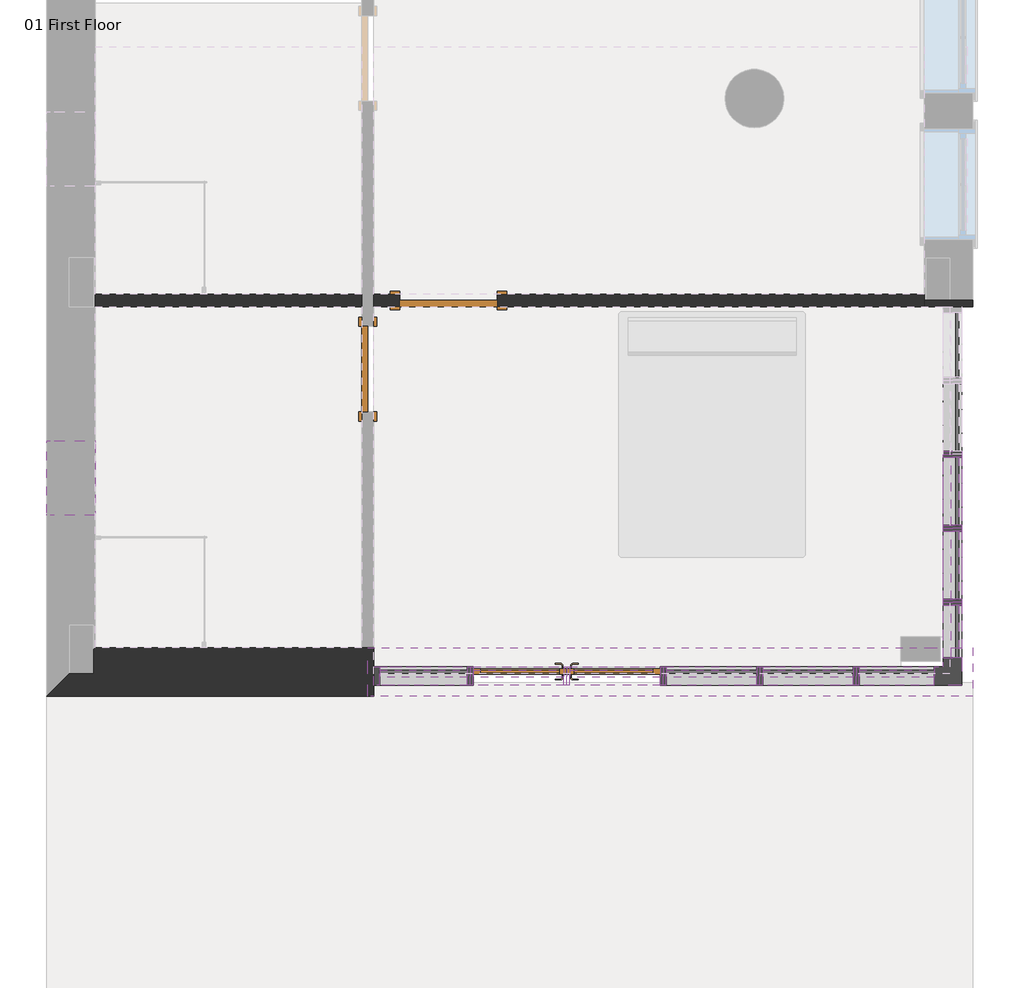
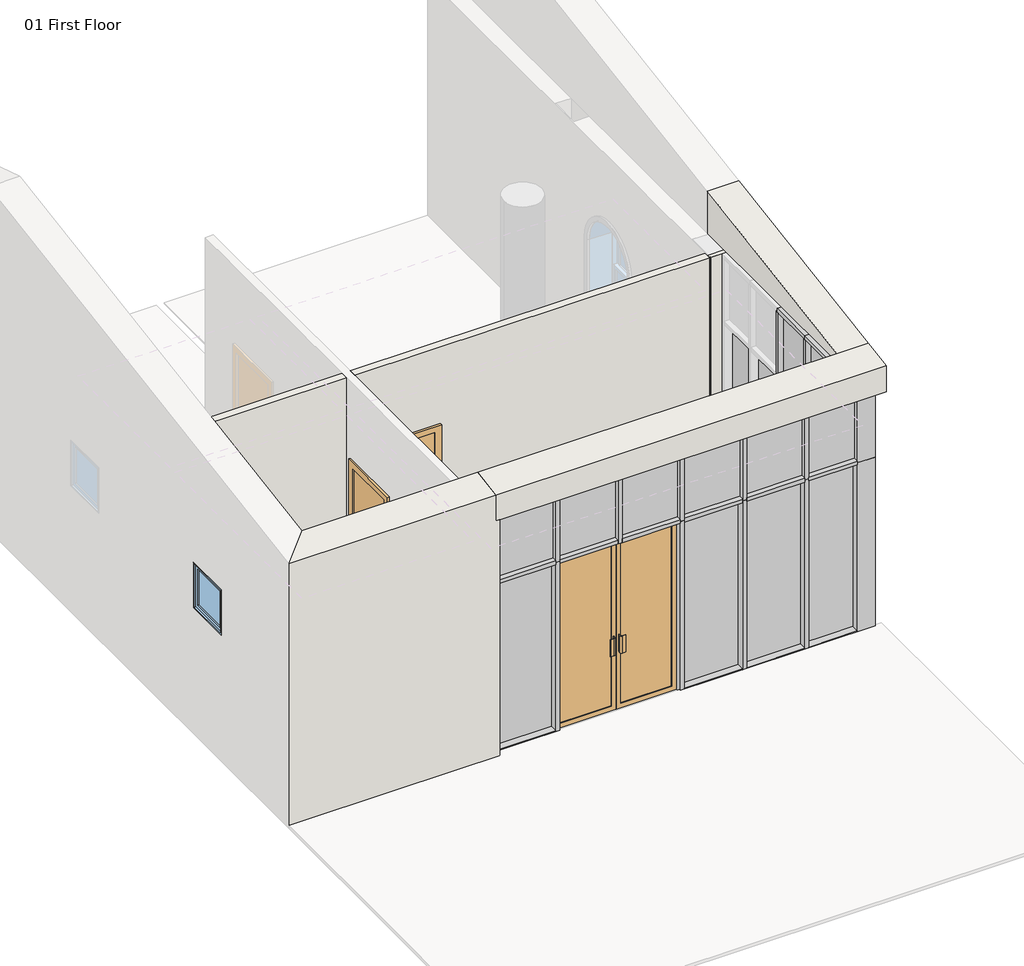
# One storey, part 1 of 3: 45 members, 18 plates, 4 walls, 3 doors, 1 window.
"""IFC4 building model written with IfcOpenShell, lengths in millimetres."""

from ifc_helpers import new_model, si_unit, origin, place, context, project, spatial, faceted_brep, transform, mapped, element, save
from components import m_door_curtain_wall_double_storefront_m_door_curtain_wall_8dde1bc9, m_single_flush_0700_x_2100mm_23326b45, m_single_flush_0800_x_2100mm_5931a049, l_corner_mullion_l_mullion_1_1d961c4e, l_corner_mullion_l_mullion_1_b63ad59a, rectangular_mullion_50_x_150mm_324a6438, rectangular_mullion_50_x_150mm_8753ce05, rectangular_mullion_50_x_150mm_f70f74d1, rectangular_mullion_50_x_150mm_f478ca5a, rectangular_mullion_50_x_150mm_1075d9c1, rectangular_mullion_50_x_150mm_b6bf1841, rectangular_mullion_50_x_150mm_342cd1b8, rectangular_mullion_50_x_150mm_27f82533, rectangular_mullion_50_x_150mm_39193753, rectangular_mullion_50_x_150mm_f704ff47, rectangular_mullion_50_x_150mm_af0ba744, rectangular_mullion_50_x_150mm_80f63b0b, rectangular_mullion_50_x_150mm_db5acec3, rectangular_mullion_50_x_150mm_cae2f493, rectangular_mullion_50_x_150mm_9a38d7ad, rectangular_mullion_50_x_150mm_a8401840, rectangular_mullion_50_x_150mm_3184acce, rectangular_mullion_50_x_150mm_44fe3089, rectangular_mullion_50_x_150mm_4e612c1a, rectangular_mullion_50_x_150mm_7d2f3f35, system_panel_glazed_834570a4, system_panel_glazed_a0e57360, system_panel_glazed_11854295, system_panel_glazed_6aca887c, system_panel_glazed_76cff112, system_panel_glazed_0cbce7a5, system_panel_solid_505ec3b0, system_panel_solid_37a388a8, system_panel_solid_ce425cba, system_panel_solid_9ac85d2e, system_panel_solid_fdd704db, m_fixed_0610_x_0610mm_08517cb4

model = new_model("IFC4")

# Units and contexts
model_context = context("Model", 3, world=origin())
ifc_project = project(units=[si_unit("LENGTHUNIT", "METRE", prefix="MILLI")], contexts=[model_context])

# Site, building, storey
site = spatial("IfcSite", under=ifc_project)
building = spatial("IfcBuilding", under=site)
storey = spatial("IfcBuildingStorey", under=building, Name="01 First Floor", Elevation=3500.0)

# Doors
placement = place(None, origin())
m_door_curtain_wall_double_storefront_m_door_curtain_wall_shape = m_door_curtain_wall_double_storefront_m_door_curtain_wall_8dde1bc9(model_context)
element("IfcDoor", 1, ObjectType="M_Door-Curtain-Wall-Double-Storefront : M_Door-Curtain-Wall-Double-Storefront", at=placement, inside=storey, context=model_context, shape_type="MappedRepresentation", body=[
    mapped(m_door_curtain_wall_double_storefront_m_door_curtain_wall_shape, transform((-4255.8741332, -3082.7101648, 3500.0), x_axis=(1.0, 0.0, 0.0), y_axis=(0.0, 1.0, 0.0), z_axis=(0.0, 0.0, 1.0))),
])
m_single_flush_0700_x_2100mm_shape = m_single_flush_0700_x_2100mm_23326b45(model_context)
element("IfcDoor", 2, ObjectType="M_Single-Flush : 0700 x 2100mm", at=placement, inside=storey, context=model_context, shape_type="MappedRepresentation", body=[
    mapped(m_single_flush_0700_x_2100mm_shape, transform((-5882.5407999, -574.1267294, 3500.0), x_axis=(0.0, 1.0, 0.0), y_axis=(-1.0, 0.0, 0.0), z_axis=(0.0, 0.0, 1.0))),
])
m_single_flush_0800_x_2100mm_shape = m_single_flush_0800_x_2100mm_5931a049(model_context)
element("IfcDoor", 3, ObjectType="M_Single-Flush : 0800 x 2100mm", at=placement, inside=storey, context=model_context, shape_type="MappedRepresentation", body=[
    mapped(m_single_flush_0800_x_2100mm_shape, transform((-5222.5407999, -12.7101648, 3500.0), x_axis=(-1.0, 0.0, 0.0), y_axis=(0.0, -1.0, 0.0), z_axis=(0.0, 0.0, 1.0))),
])

# Members
l_corner_mullion_l_mullion_1_shape = l_corner_mullion_l_mullion_1_1d961c4e(model_context)
element("IfcMember", 4, ObjectType="L Corner Mullion : L Mullion 1", at=placement, inside=storey, context=model_context, shape_type="MappedRepresentation", body=[
    mapped(l_corner_mullion_l_mullion_1_shape, transform((-1102.5407999, -3082.7101648, 5800.0), x_axis=(0.0, -1.0, 0.0), y_axis=(1.0, 0.0, 0.0), z_axis=(0.0, 0.0, 1.0))),
])
l_corner_mullion_l_mullion_1_2_shape = l_corner_mullion_l_mullion_1_b63ad59a(model_context)
element("IfcMember", 5, ObjectType="L Corner Mullion : L Mullion 1", at=placement, inside=storey, context=model_context, shape_type="MappedRepresentation", body=[
    mapped(l_corner_mullion_l_mullion_1_2_shape, transform((-1102.5407999, -3082.7101648, 6700.0), x_axis=(0.0, -1.0, 0.0), y_axis=(1.0, 0.0, 0.0), z_axis=(0.0, 0.0, 1.0))),
])
rectangular_mullion_50_x_150mm_shape = rectangular_mullion_50_x_150mm_324a6438(model_context)
element("IfcMember", 6, ObjectType="Rectangular Mullion : 50 x 150mm", at=placement, inside=storey, context=model_context, shape_type="MappedRepresentation", body=[
    mapped(rectangular_mullion_50_x_150mm_shape, transform((-5832.5407999, -3082.7101648, 6650.0), x_axis=(-1.0, 0.0, 0.0), y_axis=(0.0, -1.0, 0.0), z_axis=(0.0, 0.0, 1.0))),
])
rectangular_mullion_50_x_150mm_2_shape = rectangular_mullion_50_x_150mm_8753ce05(model_context)
element("IfcMember", 7, ObjectType="Rectangular Mullion : 50 x 150mm", at=placement, inside=storey, context=model_context, shape_type="MappedRepresentation", body=[
    mapped(rectangular_mullion_50_x_150mm_2_shape, transform((-5832.5407999, -3082.7101648, 5800.0), x_axis=(-1.0, 0.0, 0.0), y_axis=(0.0, -1.0, 0.0), z_axis=(0.0, 0.0, 1.0))),
])
rectangular_mullion_50_x_150mm_3_shape = rectangular_mullion_50_x_150mm_f70f74d1(model_context)
element("IfcMember", 8, ObjectType="Rectangular Mullion : 50 x 150mm", at=placement, inside=storey, context=model_context, shape_type="MappedRepresentation", body=[
    mapped(rectangular_mullion_50_x_150mm_3_shape, transform((-5044.2074664, -3082.7101648, 3500.0), x_axis=(1.0, 0.0, 0.0), y_axis=(0.0, -1.0, 0.0), z_axis=(0.0, 0.0, -1.0))),
])
element("IfcMember", 9, ObjectType="Rectangular Mullion : 50 x 150mm", at=placement, inside=storey, context=model_context, shape_type="MappedRepresentation", body=[
    mapped(rectangular_mullion_50_x_150mm_3_shape, transform((-3467.5407999, -3082.7101648, 3500.0), x_axis=(1.0, 0.0, 0.0), y_axis=(0.0, -1.0, 0.0), z_axis=(0.0, 0.0, -1.0))),
])
element("IfcMember", 10, ObjectType="Rectangular Mullion : 50 x 150mm", at=placement, inside=storey, context=model_context, shape_type="MappedRepresentation", body=[
    mapped(rectangular_mullion_50_x_150mm_3_shape, transform((-2679.2074667, -3082.7101648, 3500.0), x_axis=(1.0, 0.0, 0.0), y_axis=(0.0, -1.0, 0.0), z_axis=(0.0, 0.0, -1.0))),
])
element("IfcMember", 11, ObjectType="Rectangular Mullion : 50 x 150mm", at=placement, inside=storey, context=model_context, shape_type="MappedRepresentation", body=[
    mapped(rectangular_mullion_50_x_150mm_3_shape, transform((-1890.8741335, -3082.7101648, 3500.0), x_axis=(1.0, 0.0, 0.0), y_axis=(0.0, -1.0, 0.0), z_axis=(0.0, 0.0, -1.0))),
])
rectangular_mullion_50_x_150mm_4_shape = rectangular_mullion_50_x_150mm_f478ca5a(model_context)
element("IfcMember", 12, ObjectType="Rectangular Mullion : 50 x 150mm", at=placement, inside=storey, context=model_context, shape_type="MappedRepresentation", body=[
    mapped(rectangular_mullion_50_x_150mm_4_shape, transform((-5044.2074664, -3082.7101648, 5800.0), x_axis=(1.0, 0.0, 0.0), y_axis=(0.0, -1.0, 0.0), z_axis=(0.0, 0.0, -1.0))),
])
element("IfcMember", 13, ObjectType="Rectangular Mullion : 50 x 150mm", at=placement, inside=storey, context=model_context, shape_type="MappedRepresentation", body=[
    mapped(rectangular_mullion_50_x_150mm_4_shape, transform((-3467.5407999, -3082.7101648, 5800.0), x_axis=(1.0, 0.0, 0.0), y_axis=(0.0, -1.0, 0.0), z_axis=(0.0, 0.0, -1.0))),
])
element("IfcMember", 14, ObjectType="Rectangular Mullion : 50 x 150mm", at=placement, inside=storey, context=model_context, shape_type="MappedRepresentation", body=[
    mapped(rectangular_mullion_50_x_150mm_4_shape, transform((-2679.2074667, -3082.7101648, 5800.0), x_axis=(1.0, 0.0, 0.0), y_axis=(0.0, -1.0, 0.0), z_axis=(0.0, 0.0, -1.0))),
])
element("IfcMember", 15, ObjectType="Rectangular Mullion : 50 x 150mm", at=placement, inside=storey, context=model_context, shape_type="MappedRepresentation", body=[
    mapped(rectangular_mullion_50_x_150mm_4_shape, transform((-1890.8741335, -3082.7101648, 5800.0), x_axis=(1.0, 0.0, 0.0), y_axis=(0.0, -1.0, 0.0), z_axis=(0.0, 0.0, -1.0))),
])
rectangular_mullion_50_x_150mm_5_shape = rectangular_mullion_50_x_150mm_1075d9c1(model_context)
element("IfcMember", 16, ObjectType="Rectangular Mullion : 50 x 150mm", at=placement, inside=storey, context=model_context, shape_type="MappedRepresentation", body=[
    mapped(rectangular_mullion_50_x_150mm_5_shape, transform((-4255.8741332, -3082.7101648, 5775.0), x_axis=(1.0, 0.0, 0.0), y_axis=(0.0, -1.0, 0.0), z_axis=(0.0, 0.0, -1.0))),
])
element("IfcMember", 17, ObjectType="Rectangular Mullion : 50 x 150mm", at=placement, inside=storey, context=model_context, shape_type="MappedRepresentation", body=[
    mapped(rectangular_mullion_50_x_150mm_3_shape, transform((-1102.5407999, -2478.7101646, 3500.0), x_axis=(0.0, 1.0, 0.0), y_axis=(1.0, 0.0, 0.0), z_axis=(0.0, 0.0, -1.0))),
])
element("IfcMember", 18, ObjectType="Rectangular Mullion : 50 x 150mm", at=placement, inside=storey, context=model_context, shape_type="MappedRepresentation", body=[
    mapped(rectangular_mullion_50_x_150mm_3_shape, transform((-1102.5407999, -1874.7101647, 3500.0), x_axis=(0.0, 1.0, 0.0), y_axis=(1.0, 0.0, 0.0), z_axis=(0.0, 0.0, -1.0))),
])
element("IfcMember", 19, ObjectType="Rectangular Mullion : 50 x 150mm", at=placement, inside=storey, context=model_context, shape_type="MappedRepresentation", body=[
    mapped(rectangular_mullion_50_x_150mm_3_shape, transform((-1102.5407999, -1270.7101648, 3500.0), x_axis=(0.0, 1.0, 0.0), y_axis=(1.0, 0.0, 0.0), z_axis=(0.0, 0.0, -1.0))),
])
element("IfcMember", 20, ObjectType="Rectangular Mullion : 50 x 150mm", at=placement, inside=storey, context=model_context, shape_type="MappedRepresentation", body=[
    mapped(rectangular_mullion_50_x_150mm_4_shape, transform((-1102.5407999, -2478.7101646, 5800.0), x_axis=(0.0, 1.0, 0.0), y_axis=(1.0, 0.0, 0.0), z_axis=(0.0, 0.0, -1.0))),
])
element("IfcMember", 21, ObjectType="Rectangular Mullion : 50 x 150mm", at=placement, inside=storey, context=model_context, shape_type="MappedRepresentation", body=[
    mapped(rectangular_mullion_50_x_150mm_4_shape, transform((-1102.5407999, -1874.7101647, 5800.0), x_axis=(0.0, 1.0, 0.0), y_axis=(1.0, 0.0, 0.0), z_axis=(0.0, 0.0, -1.0))),
])
element("IfcMember", 22, ObjectType="Rectangular Mullion : 50 x 150mm", at=placement, inside=storey, context=model_context, shape_type="MappedRepresentation", body=[
    mapped(rectangular_mullion_50_x_150mm_4_shape, transform((-1102.5407999, -1270.7101648, 5800.0), x_axis=(0.0, 1.0, 0.0), y_axis=(1.0, 0.0, 0.0), z_axis=(0.0, 0.0, -1.0))),
])
rectangular_mullion_50_x_150mm_6_shape = rectangular_mullion_50_x_150mm_b6bf1841(model_context)
element("IfcMember", 23, ObjectType="Rectangular Mullion : 50 x 150mm", at=placement, inside=storey, context=model_context, shape_type="MappedRepresentation", body=[
    mapped(rectangular_mullion_50_x_150mm_6_shape, transform((-1102.5407999, -2932.7101648, 3500.0), x_axis=(0.0, 0.0, -1.0), y_axis=(1.0, 0.0, 0.0), z_axis=(0.0, -1.0, 0.0))),
])
rectangular_mullion_50_x_150mm_7_shape = rectangular_mullion_50_x_150mm_342cd1b8(model_context)
element("IfcMember", 24, ObjectType="Rectangular Mullion : 50 x 150mm", at=placement, inside=storey, context=model_context, shape_type="MappedRepresentation", body=[
    mapped(rectangular_mullion_50_x_150mm_7_shape, transform((-1102.5407999, -2478.7101646, 6700.0), x_axis=(0.0, 0.0, 1.0), y_axis=(1.0, 0.0, 0.0), z_axis=(0.0, 1.0, 0.0))),
])
rectangular_mullion_50_x_150mm_8_shape = rectangular_mullion_50_x_150mm_27f82533(model_context)
element("IfcMember", 25, ObjectType="Rectangular Mullion : 50 x 150mm", at=placement, inside=storey, context=model_context, shape_type="MappedRepresentation", body=[
    mapped(rectangular_mullion_50_x_150mm_8_shape, transform((-1102.5407999, -1874.7101647, 6700.0), x_axis=(0.0, 0.0, 1.0), y_axis=(1.0, 0.0, 0.0), z_axis=(0.0, 1.0, 0.0))),
])
element("IfcMember", 26, ObjectType="Rectangular Mullion : 50 x 150mm", at=placement, inside=storey, context=model_context, shape_type="MappedRepresentation", body=[
    mapped(rectangular_mullion_50_x_150mm_8_shape, transform((-1102.5407999, -1270.7101648, 6700.0), x_axis=(0.0, 0.0, 1.0), y_axis=(1.0, 0.0, 0.0), z_axis=(0.0, 1.0, 0.0))),
])
rectangular_mullion_50_x_150mm_9_shape = rectangular_mullion_50_x_150mm_39193753(model_context)
element("IfcMember", 27, ObjectType="Rectangular Mullion : 50 x 150mm", at=placement, inside=storey, context=model_context, shape_type="MappedRepresentation", body=[
    mapped(rectangular_mullion_50_x_150mm_9_shape, transform((-1102.5407999, -2453.7101646, 3500.0), x_axis=(0.0, 0.0, -1.0), y_axis=(1.0, 0.0, 0.0), z_axis=(0.0, -1.0, 0.0))),
])
element("IfcMember", 28, ObjectType="Rectangular Mullion : 50 x 150mm", at=placement, inside=storey, context=model_context, shape_type="MappedRepresentation", body=[
    mapped(rectangular_mullion_50_x_150mm_9_shape, transform((-1102.5407999, -1849.7101647, 3500.0), x_axis=(0.0, 0.0, -1.0), y_axis=(1.0, 0.0, 0.0), z_axis=(0.0, -1.0, 0.0))),
])
element("IfcMember", 29, ObjectType="Rectangular Mullion : 50 x 150mm", at=placement, inside=storey, context=model_context, shape_type="MappedRepresentation", body=[
    mapped(rectangular_mullion_50_x_150mm_9_shape, transform((-1102.5407999, -1245.7101648, 3500.0), x_axis=(0.0, 0.0, -1.0), y_axis=(1.0, 0.0, 0.0), z_axis=(0.0, -1.0, 0.0))),
])
rectangular_mullion_50_x_150mm_10_shape = rectangular_mullion_50_x_150mm_f704ff47(model_context)
element("IfcMember", 30, ObjectType="Rectangular Mullion : 50 x 150mm", at=placement, inside=storey, context=model_context, shape_type="MappedRepresentation", body=[
    mapped(rectangular_mullion_50_x_150mm_10_shape, transform((-1102.5407999, -2503.7101646, 5800.0), x_axis=(0.0, 0.0, 1.0), y_axis=(1.0, 0.0, 0.0), z_axis=(0.0, 1.0, 0.0))),
])
rectangular_mullion_50_x_150mm_11_shape = rectangular_mullion_50_x_150mm_af0ba744(model_context)
element("IfcMember", 31, ObjectType="Rectangular Mullion : 50 x 150mm", at=placement, inside=storey, context=model_context, shape_type="MappedRepresentation", body=[
    mapped(rectangular_mullion_50_x_150mm_11_shape, transform((-1102.5407999, -1899.7101647, 5800.0), x_axis=(0.0, 0.0, 1.0), y_axis=(1.0, 0.0, 0.0), z_axis=(0.0, 1.0, 0.0))),
])
element("IfcMember", 32, ObjectType="Rectangular Mullion : 50 x 150mm", at=placement, inside=storey, context=model_context, shape_type="MappedRepresentation", body=[
    mapped(rectangular_mullion_50_x_150mm_11_shape, transform((-1102.5407999, -1295.7101648, 5800.0), x_axis=(0.0, 0.0, 1.0), y_axis=(1.0, 0.0, 0.0), z_axis=(0.0, 1.0, 0.0))),
])
rectangular_mullion_50_x_150mm_12_shape = rectangular_mullion_50_x_150mm_80f63b0b(model_context)
element("IfcMember", 33, ObjectType="Rectangular Mullion : 50 x 150mm", at=placement, inside=storey, context=model_context, shape_type="MappedRepresentation", body=[
    mapped(rectangular_mullion_50_x_150mm_12_shape, transform((-5782.5407999, -3082.7101648, 3500.0), x_axis=(0.0, 0.0, -1.0), y_axis=(0.0, -1.0, 0.0), z_axis=(-1.0, 0.0, 0.0))),
])
rectangular_mullion_50_x_150mm_13_shape = rectangular_mullion_50_x_150mm_db5acec3(model_context)
element("IfcMember", 34, ObjectType="Rectangular Mullion : 50 x 150mm", at=placement, inside=storey, context=model_context, shape_type="MappedRepresentation", body=[
    mapped(rectangular_mullion_50_x_150mm_13_shape, transform((-5044.2074664, -3082.7101648, 6700.0), x_axis=(0.0, 0.0, 1.0), y_axis=(0.0, -1.0, 0.0), z_axis=(1.0, 0.0, 0.0))),
])
rectangular_mullion_50_x_150mm_14_shape = rectangular_mullion_50_x_150mm_cae2f493(model_context)
element("IfcMember", 35, ObjectType="Rectangular Mullion : 50 x 150mm", at=placement, inside=storey, context=model_context, shape_type="MappedRepresentation", body=[
    mapped(rectangular_mullion_50_x_150mm_14_shape, transform((-4255.8741332, -3082.7101648, 6700.0), x_axis=(0.0, 0.0, 1.0), y_axis=(0.0, -1.0, 0.0), z_axis=(1.0, 0.0, 0.0))),
])
element("IfcMember", 36, ObjectType="Rectangular Mullion : 50 x 150mm", at=placement, inside=storey, context=model_context, shape_type="MappedRepresentation", body=[
    mapped(rectangular_mullion_50_x_150mm_14_shape, transform((-3467.5407999, -3082.7101648, 6700.0), x_axis=(0.0, 0.0, 1.0), y_axis=(0.0, -1.0, 0.0), z_axis=(1.0, 0.0, 0.0))),
])
element("IfcMember", 37, ObjectType="Rectangular Mullion : 50 x 150mm", at=placement, inside=storey, context=model_context, shape_type="MappedRepresentation", body=[
    mapped(rectangular_mullion_50_x_150mm_14_shape, transform((-2679.2074667, -3082.7101648, 6700.0), x_axis=(0.0, 0.0, 1.0), y_axis=(0.0, -1.0, 0.0), z_axis=(1.0, 0.0, 0.0))),
])
element("IfcMember", 38, ObjectType="Rectangular Mullion : 50 x 150mm", at=placement, inside=storey, context=model_context, shape_type="MappedRepresentation", body=[
    mapped(rectangular_mullion_50_x_150mm_14_shape, transform((-1890.8741335, -3082.7101648, 6700.0), x_axis=(0.0, 0.0, 1.0), y_axis=(0.0, -1.0, 0.0), z_axis=(1.0, 0.0, 0.0))),
])
rectangular_mullion_50_x_150mm_15_shape = rectangular_mullion_50_x_150mm_9a38d7ad(model_context)
element("IfcMember", 39, ObjectType="Rectangular Mullion : 50 x 150mm", at=placement, inside=storey, context=model_context, shape_type="MappedRepresentation", body=[
    mapped(rectangular_mullion_50_x_150mm_15_shape, transform((-3442.5407999, -3082.7101648, 3500.0), x_axis=(0.0, 0.0, -1.0), y_axis=(0.0, -1.0, 0.0), z_axis=(-1.0, 0.0, 0.0))),
])
element("IfcMember", 40, ObjectType="Rectangular Mullion : 50 x 150mm", at=placement, inside=storey, context=model_context, shape_type="MappedRepresentation", body=[
    mapped(rectangular_mullion_50_x_150mm_15_shape, transform((-2654.2074667, -3082.7101648, 3500.0), x_axis=(0.0, 0.0, -1.0), y_axis=(0.0, -1.0, 0.0), z_axis=(-1.0, 0.0, 0.0))),
])
rectangular_mullion_50_x_150mm_16_shape = rectangular_mullion_50_x_150mm_a8401840(model_context)
element("IfcMember", 41, ObjectType="Rectangular Mullion : 50 x 150mm", at=placement, inside=storey, context=model_context, shape_type="MappedRepresentation", body=[
    mapped(rectangular_mullion_50_x_150mm_16_shape, transform((-5069.2074664, -3082.7101648, 5800.0), x_axis=(0.0, 0.0, 1.0), y_axis=(0.0, -1.0, 0.0), z_axis=(1.0, 0.0, 0.0))),
])
rectangular_mullion_50_x_150mm_17_shape = rectangular_mullion_50_x_150mm_3184acce(model_context)
element("IfcMember", 42, ObjectType="Rectangular Mullion : 50 x 150mm", at=placement, inside=storey, context=model_context, shape_type="MappedRepresentation", body=[
    mapped(rectangular_mullion_50_x_150mm_17_shape, transform((-4280.8741332, -3082.7101648, 5800.0), x_axis=(0.0, 0.0, 1.0), y_axis=(0.0, -1.0, 0.0), z_axis=(1.0, 0.0, 0.0))),
])
element("IfcMember", 43, ObjectType="Rectangular Mullion : 50 x 150mm", at=placement, inside=storey, context=model_context, shape_type="MappedRepresentation", body=[
    mapped(rectangular_mullion_50_x_150mm_17_shape, transform((-3492.5407999, -3082.7101648, 5800.0), x_axis=(0.0, 0.0, 1.0), y_axis=(0.0, -1.0, 0.0), z_axis=(1.0, 0.0, 0.0))),
])
element("IfcMember", 44, ObjectType="Rectangular Mullion : 50 x 150mm", at=placement, inside=storey, context=model_context, shape_type="MappedRepresentation", body=[
    mapped(rectangular_mullion_50_x_150mm_17_shape, transform((-2704.2074667, -3082.7101648, 5800.0), x_axis=(0.0, 0.0, 1.0), y_axis=(0.0, -1.0, 0.0), z_axis=(1.0, 0.0, 0.0))),
])
element("IfcMember", 45, ObjectType="Rectangular Mullion : 50 x 150mm", at=placement, inside=storey, context=model_context, shape_type="MappedRepresentation", body=[
    mapped(rectangular_mullion_50_x_150mm_17_shape, transform((-1915.8741335, -3082.7101648, 5800.0), x_axis=(0.0, 0.0, 1.0), y_axis=(0.0, -1.0, 0.0), z_axis=(1.0, 0.0, 0.0))),
])
rectangular_mullion_50_x_150mm_18_shape = rectangular_mullion_50_x_150mm_44fe3089(model_context)
element("IfcMember", 46, ObjectType="Rectangular Mullion : 50 x 150mm", at=placement, inside=storey, context=model_context, shape_type="MappedRepresentation", body=[
    mapped(rectangular_mullion_50_x_150mm_18_shape, transform((-1252.5407999, -3082.7101648, 6700.0), x_axis=(0.0, 0.0, 1.0), y_axis=(0.0, -1.0, 0.0), z_axis=(1.0, 0.0, 0.0))),
])
rectangular_mullion_50_x_150mm_19_shape = rectangular_mullion_50_x_150mm_4e612c1a(model_context)
element("IfcMember", 47, ObjectType="Rectangular Mullion : 50 x 150mm", at=placement, inside=storey, context=model_context, shape_type="MappedRepresentation", body=[
    mapped(rectangular_mullion_50_x_150mm_19_shape, transform((-1865.8741335, -3082.7101648, 3500.0), x_axis=(0.0, 0.0, -1.0), y_axis=(0.0, -1.0, 0.0), z_axis=(-1.0, 0.0, 0.0))),
])
rectangular_mullion_50_x_150mm_20_shape = rectangular_mullion_50_x_150mm_7d2f3f35(model_context)
element("IfcMember", 48, ObjectType="Rectangular Mullion : 50 x 150mm", at=placement, inside=storey, context=model_context, shape_type="MappedRepresentation", body=[
    mapped(rectangular_mullion_50_x_150mm_20_shape, transform((-1252.5407999, -3082.7101648, 5800.0), x_axis=(0.0, 0.0, 1.0), y_axis=(0.0, -1.0, 0.0), z_axis=(1.0, 0.0, 0.0))),
])

# Plates
system_panel_glazed_shape = system_panel_glazed_834570a4(model_context)
element("IfcPlate", 49, ObjectType="System Panel : Glazed", at=placement, inside=storey, context=model_context, shape_type="MappedRepresentation", body=[
    mapped(system_panel_glazed_shape, transform((-1102.5407999, -2718.2101647, 3550.0), x_axis=(0.0, 1.0, 0.0), y_axis=(-1.0, 0.0, 0.0), z_axis=(0.0, 0.0, 1.0))),
])
system_panel_glazed_2_shape = system_panel_glazed_a0e57360(model_context)
element("IfcPlate", 50, ObjectType="System Panel : Glazed", at=placement, inside=storey, context=model_context, shape_type="MappedRepresentation", body=[
    mapped(system_panel_glazed_2_shape, transform((-1102.5407999, -2176.7101646, 3550.0), x_axis=(0.0, 1.0, 0.0), y_axis=(-1.0, 0.0, 0.0), z_axis=(0.0, 0.0, 1.0))),
])
element("IfcPlate", 51, ObjectType="System Panel : Glazed", at=placement, inside=storey, context=model_context, shape_type="MappedRepresentation", body=[
    mapped(system_panel_glazed_2_shape, transform((-1102.5407999, -1572.7101648, 3550.0), x_axis=(0.0, 1.0, 0.0), y_axis=(-1.0, 0.0, 0.0), z_axis=(0.0, 0.0, 1.0))),
])
element("IfcPlate", 52, ObjectType="System Panel : Glazed", at=placement, inside=storey, context=model_context, shape_type="MappedRepresentation", body=[
    mapped(system_panel_glazed_2_shape, transform((-1102.5407999, -968.7101649, 3550.0), x_axis=(0.0, 1.0, 0.0), y_axis=(-1.0, 0.0, 0.0), z_axis=(0.0, 0.0, 1.0))),
])
system_panel_glazed_3_shape = system_panel_glazed_11854295(model_context)
element("IfcPlate", 53, ObjectType="System Panel : Glazed", at=placement, inside=storey, context=model_context, shape_type="MappedRepresentation", body=[
    mapped(system_panel_glazed_3_shape, transform((-1102.5407999, -377.2101649, 3550.0), x_axis=(0.0, 1.0, 0.0), y_axis=(-1.0, 0.0, 0.0), z_axis=(0.0, 0.0, 1.0))),
])
system_panel_glazed_4_shape = system_panel_glazed_6aca887c(model_context)
element("IfcPlate", 54, ObjectType="System Panel : Glazed", at=placement, inside=storey, context=model_context, shape_type="MappedRepresentation", body=[
    mapped(system_panel_glazed_4_shape, transform((-5425.8741332, -3082.7101648, 3550.0), x_axis=(1.0, 0.0, 0.0), y_axis=(0.0, 1.0, 0.0), z_axis=(0.0, 0.0, 1.0))),
])
system_panel_glazed_5_shape = system_panel_glazed_76cff112(model_context)
element("IfcPlate", 55, ObjectType="System Panel : Glazed", at=placement, inside=storey, context=model_context, shape_type="MappedRepresentation", body=[
    mapped(system_panel_glazed_5_shape, transform((-3073.3741333, -3082.7101648, 3550.0), x_axis=(1.0, 0.0, 0.0), y_axis=(0.0, 1.0, 0.0), z_axis=(0.0, 0.0, 1.0))),
])
element("IfcPlate", 56, ObjectType="System Panel : Glazed", at=placement, inside=storey, context=model_context, shape_type="MappedRepresentation", body=[
    mapped(system_panel_glazed_5_shape, transform((-2285.0408001, -3082.7101648, 3550.0), x_axis=(1.0, 0.0, 0.0), y_axis=(0.0, 1.0, 0.0), z_axis=(0.0, 0.0, 1.0))),
])
system_panel_glazed_6_shape = system_panel_glazed_0cbce7a5(model_context)
element("IfcPlate", 57, ObjectType="System Panel : Glazed", at=placement, inside=storey, context=model_context, shape_type="MappedRepresentation", body=[
    mapped(system_panel_glazed_6_shape, transform((-1559.2074667, -3082.7101648, 3550.0), x_axis=(1.0, 0.0, 0.0), y_axis=(0.0, 1.0, 0.0), z_axis=(0.0, 0.0, 1.0))),
])
system_panel_solid_shape = system_panel_solid_505ec3b0(model_context)
element("IfcPlate", 58, ObjectType="System Panel : Solid", at=placement, inside=storey, context=model_context, shape_type="MappedRepresentation", body=[
    mapped(system_panel_solid_shape, transform((-1102.5407999, -2718.2101647, 5825.0), x_axis=(0.0, 1.0, 0.0), y_axis=(-1.0, 0.0, 0.0), z_axis=(0.0, 0.0, 1.0))),
])
system_panel_solid_2_shape = system_panel_solid_37a388a8(model_context)
element("IfcPlate", 59, ObjectType="System Panel : Solid", at=placement, inside=storey, context=model_context, shape_type="MappedRepresentation", body=[
    mapped(system_panel_solid_2_shape, transform((-1102.5407999, -2176.7101646, 5825.0), x_axis=(0.0, 1.0, 0.0), y_axis=(-1.0, 0.0, 0.0), z_axis=(0.0, 0.0, 1.0))),
])
element("IfcPlate", 60, ObjectType="System Panel : Solid", at=placement, inside=storey, context=model_context, shape_type="MappedRepresentation", body=[
    mapped(system_panel_solid_2_shape, transform((-1102.5407999, -1572.7101648, 5825.0), x_axis=(0.0, 1.0, 0.0), y_axis=(-1.0, 0.0, 0.0), z_axis=(0.0, 0.0, 1.0))),
])
system_panel_solid_3_shape = system_panel_solid_ce425cba(model_context)
element("IfcPlate", 61, ObjectType="System Panel : Solid", at=placement, inside=storey, context=model_context, shape_type="MappedRepresentation", body=[
    mapped(system_panel_solid_3_shape, transform((-5425.8741332, -3082.7101648, 5825.0), x_axis=(1.0, 0.0, 0.0), y_axis=(0.0, 1.0, 0.0), z_axis=(0.0, 0.0, 1.0))),
])
system_panel_solid_4_shape = system_panel_solid_9ac85d2e(model_context)
element("IfcPlate", 62, ObjectType="System Panel : Solid", at=placement, inside=storey, context=model_context, shape_type="MappedRepresentation", body=[
    mapped(system_panel_solid_4_shape, transform((-4650.0407998, -3082.7101648, 5825.0), x_axis=(1.0, 0.0, 0.0), y_axis=(0.0, 1.0, 0.0), z_axis=(0.0, 0.0, 1.0))),
])
element("IfcPlate", 63, ObjectType="System Panel : Solid", at=placement, inside=storey, context=model_context, shape_type="MappedRepresentation", body=[
    mapped(system_panel_solid_4_shape, transform((-3861.7074666, -3082.7101648, 5825.0), x_axis=(1.0, 0.0, 0.0), y_axis=(0.0, 1.0, 0.0), z_axis=(0.0, 0.0, 1.0))),
])
element("IfcPlate", 64, ObjectType="System Panel : Solid", at=placement, inside=storey, context=model_context, shape_type="MappedRepresentation", body=[
    mapped(system_panel_solid_4_shape, transform((-3073.3741333, -3082.7101648, 5825.0), x_axis=(1.0, 0.0, 0.0), y_axis=(0.0, 1.0, 0.0), z_axis=(0.0, 0.0, 1.0))),
])
element("IfcPlate", 65, ObjectType="System Panel : Solid", at=placement, inside=storey, context=model_context, shape_type="MappedRepresentation", body=[
    mapped(system_panel_solid_4_shape, transform((-2285.0408001, -3082.7101648, 5825.0), x_axis=(1.0, 0.0, 0.0), y_axis=(0.0, 1.0, 0.0), z_axis=(0.0, 0.0, 1.0))),
])
system_panel_solid_5_shape = system_panel_solid_fdd704db(model_context)
element("IfcPlate", 66, ObjectType="System Panel : Solid", at=placement, inside=storey, context=model_context, shape_type="MappedRepresentation", body=[
    mapped(system_panel_solid_5_shape, transform((-1559.2074667, -3082.7101648, 5825.0), x_axis=(1.0, 0.0, 0.0), y_axis=(0.0, 1.0, 0.0), z_axis=(0.0, 0.0, 1.0))),
])

# Walls
element("IfcWall", 67, ObjectType="Exterior - Brick on CMU", at=placement, inside=storey, context=model_context, shape_type="Brep", body=[
    faceted_brep([(-5832.5407999, -2849.7101648, 3500.0), (-5932.5407999, -2849.7101648, 3500.0), (-8109.5407999, -2849.7101648, 3500.0), (-8109.5407999, -2849.7101648, 6700.0), (-5932.5407999, -2849.7101648, 6700.0), (-5832.5407999, -2849.7101648, 6700.0), (-8109.5407999, -2849.7101648, 7106.4671533), (-5882.5407999, -2849.7101648, 7106.4671533), (-5882.5407999, -2849.7101648, 7000.0), (-8109.5407999, -2849.7101648, 7000.0), (-8507.5407999, -3247.7101648, 3500.0), (-5832.5407999, -3247.7101648, 3500.0), (-5832.5407999, -3247.7101648, 6700.0), (-5882.5407999, -3247.7101648, 6700.0), (-5882.5407999, -3247.7101648, 7042.5547445), (-8507.5407999, -3247.7101648, 7042.5547445), (-8322.5407999, -3062.7101648, 3500.0), (-8122.5407999, -3062.7101648, 3500.0), (-8122.5407999, -2862.7101648, 3500.0), (-8322.5407999, -3062.7101648, 7000.0), (-8122.5407999, -2862.7101648, 6700.0), (-8122.5407999, -3062.7101648, 6700.0), (-5882.5407999, -3062.7101648, 7000.0), (-5882.5407999, -3062.7101648, 6700.0)], [[[0, 1, 2, 3, 4, 5]], [[6, 7, 8, 9]], [[10, 11, 12, 13, 14, 15]], [[2, 1, 0, 11, 10, 16, 17, 18]], [[10, 15, 6, 9, 19, 16]], [[2, 18, 20, 3]], [[18, 17, 21, 20]], [[22, 23, 21, 17, 16, 19]], [[22, 19, 9, 8]], [[14, 13, 23, 22, 8, 7]], [[13, 12, 5, 4, 3, 20, 21, 23]], [[11, 0, 5, 12]], [[7, 6, 15, 14]]]),
])
element("IfcWall", 68, ObjectType="Exterior - Brick on CMU", at=placement, inside=storey, context=model_context, shape_type="Brep", body=[
    faceted_brep([(-5882.5407999, -3247.7101648, 6700.0), (-5832.5407999, -3247.7101648, 6700.0), (-937.5407999, -3247.7101648, 6700.0), (-937.5407999, -3247.7101648, 7042.5547445), (-5882.5407999, -3247.7101648, 7042.5547445), (-937.5407999, -2849.7101648, 7106.4671533), (-937.5407999, -2849.7101648, 6700.0), (-1122.5407999, -2849.7101648, 6700.0), (-1122.5407999, -2849.7101648, 7000.0), (-5882.5407999, -2849.7101648, 7000.0), (-5882.5407999, -2849.7101648, 7106.4671533), (-1335.5407999, -2849.7101648, 7106.4671533), (-5882.5407999, -3062.7101648, 6700.0), (-1122.5407999, -3062.7101648, 6700.0), (-5882.5407999, -3062.7101648, 7000.0), (-1122.5407999, -3062.7101648, 7000.0)], [[[0, 1, 2, 3, 4]], [[5, 6, 7, 8, 9, 10, 11]], [[2, 1, 0, 12, 13, 7, 6]], [[0, 4, 10, 9, 14, 12]], [[3, 2, 6, 5]], [[8, 15, 14, 9]], [[13, 15, 8, 7]], [[15, 13, 12, 14]], [[10, 4, 3, 5, 11]]]),
])
element("IfcWall", 69, ObjectType="Exterior - Brick on CMU", at=placement, inside=storey, context=model_context, shape_type="Brep", body=[
    faceted_brep([(-937.5407999, -12.7101648, 3500.0), (-937.5407999, -12.7101648, 7562.0437956), (-937.5407999, -2849.7101648, 7106.4671533), (-937.5407999, -2849.7101648, 6700.0), (-937.5407999, -62.7101648, 6700.0), (-937.5407999, -62.7101648, 3500.0), (-1335.5407999, -2849.7101648, 7106.4671533), (-1335.5407999, -12.7101648, 7562.0437956), (-1335.5407999, -12.7101648, 7000.0), (-1335.5407999, -2849.7101648, 7000.0), (-1335.5407999, -12.7101648, 3500.0), (-1335.5407999, -62.7101648, 3500.0), (-1335.5407999, -62.7101648, 6700.0), (-1335.5407999, -12.7101648, 6700.0), (-1322.5407999, -12.7101648, 3500.0), (-1122.5407999, -12.7101648, 3500.0), (-1122.5407999, -2849.7101648, 7000.0), (-1122.5407999, -2849.7101648, 6700.0), (-1322.5407999, -12.7101648, 6700.0), (-1122.5407999, -12.7101648, 6700.0), (-1122.5407999, -12.7101648, 7000.0), (-1122.5407999, -62.7101648, 6700.0)], [[[0, 1, 2, 3, 4, 5]], [[6, 7, 8, 9]], [[10, 11, 12, 13]], [[10, 14, 15, 0, 5, 11]], [[2, 6, 9, 16, 17, 3]], [[0, 15, 14, 10, 13, 18, 19, 20, 8, 7, 1]], [[21, 19, 18, 13, 12]], [[20, 16, 9, 8]], [[19, 21, 17, 16, 20]], [[7, 6, 2, 1]], [[4, 3, 17, 21]], [[5, 4, 21, 12, 11]]]),
])
element("IfcWall", 70, ObjectType="Generic - 100mm", at=placement, inside=storey, context=model_context, shape_type="Brep", body=[
    faceted_brep([(-1335.5407999, -62.7101648, 3500.0), (-1335.5407999, -62.7101648, 6700.0), (-5832.5407999, -62.7101648, 6700.0), (-5832.5407999, -62.7101648, 3500.0), (-5622.5407999, -62.7101648, 3500.0), (-5622.5407999, -62.7101648, 5600.0), (-4822.5407999, -62.7101648, 5600.0), (-4822.5407999, -62.7101648, 3500.0), (-1335.5407999, 37.2898352, 6700.0), (-1335.5407999, 37.2898352, 3500.0), (-4822.5407999, 37.2898352, 3500.0), (-4822.5407999, 37.2898352, 5600.0), (-5622.5407999, 37.2898352, 5600.0), (-5622.5407999, 37.2898352, 3500.0), (-5832.5407999, 37.2898352, 3500.0), (-5832.5407999, 37.2898352, 6700.0), (-1335.5407999, -12.7101648, 3500.0), (-1335.5407999, -12.7101648, 6700.0)], [[[0, 1, 2, 3, 4, 5, 6, 7]], [[8, 9, 10, 11, 12, 13, 14, 15]], [[9, 16, 0, 7, 10]], [[13, 4, 3, 14]], [[1, 0, 16, 9, 8, 17]], [[3, 2, 15, 14]], [[1, 17, 8, 15, 2]], [[5, 4, 13, 12]], [[6, 5, 12, 11]], [[7, 6, 11, 10]]]),
    faceted_brep([(-8109.5407999, -62.7101648, 6700.0), (-8109.5407999, -62.7101648, 3500.0), (-5932.5407999, -62.7101648, 3500.0), (-5932.5407999, -62.7101648, 6700.0), (-8109.5407999, 37.2898352, 3500.0), (-8109.5407999, 37.2898352, 6700.0), (-5932.5407999, 37.2898352, 6700.0), (-5932.5407999, 37.2898352, 3500.0)], [[[0, 1, 2, 3]], [[4, 5, 6, 7]], [[1, 4, 7, 2]], [[3, 2, 7, 6]], [[5, 0, 3, 6]], [[1, 0, 5, 4]]]),
])

# Window
m_fixed_0610_x_0610mm_shape = m_fixed_0610_x_0610mm_08517cb4(model_context)
element("IfcWindow", 71, ObjectType="M_Fixed : 0610 x 0610mm", at=placement, inside=storey, context=model_context, shape_type="MappedRepresentation", body=[
    mapped(m_fixed_0610_x_0610mm_shape, transform((-8295.5407999, -1462.7101648, 4275.0), x_axis=(0.0, 1.0, 0.0), y_axis=(-1.0, 0.0, 0.0), z_axis=(0.0, 0.0, 1.0))),
])

save(model, "model.ifc")
